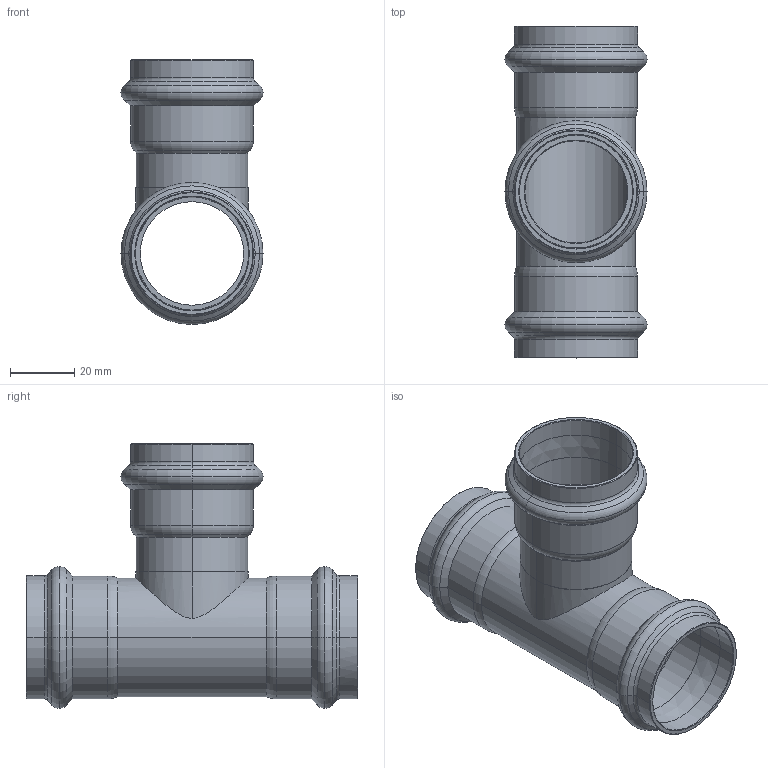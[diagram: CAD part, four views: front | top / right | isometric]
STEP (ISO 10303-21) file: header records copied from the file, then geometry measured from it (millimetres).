
FILE_DESCRIPTION(('CoCreate Modeling STEP Export'),'2;1');
FILE_NAME('8130VW35.stp','2013-01-29T16:20:29',(''),(''),'CoCreate Modeling STEP processor for AP214 (Solid Model)','CoCreate Modeling 17.00A 17-Jun-2010 (C) Parametric Technology GmbH','');
FILE_SCHEMA(('AUTOMOTIVE_DESIGN { 1 0 10303 214 1 1 1 1 }'));
Length unit declared in the file: millimetre
Products named in the file (2): 8130VW35
Assembly tree (1 placements, depth 2):
  8130VW35
    8130VW35
Bounding box: 44.3 x 103.51 x 82.64 mm (x, y, z)
Volume: 30286.9 mm3; surface area: 34795 mm2
Topology: 1 solids, 1 shells, 134 faces, 286 edges, 162 vertices
Faces by surface type: cylinder 42, torus 42, cone 38, plane 10, bspline 2
Entity records: 6485 total; most frequent: CARTESIAN_POINT 4022, ORIENTED_EDGE 572, DIRECTION 444, EDGE_CURVE 286, AXIS2_PLACEMENT_3D 182, VERTEX_POINT 162, EDGE_LOOP 146, FACE_OUTER_BOUND 134
